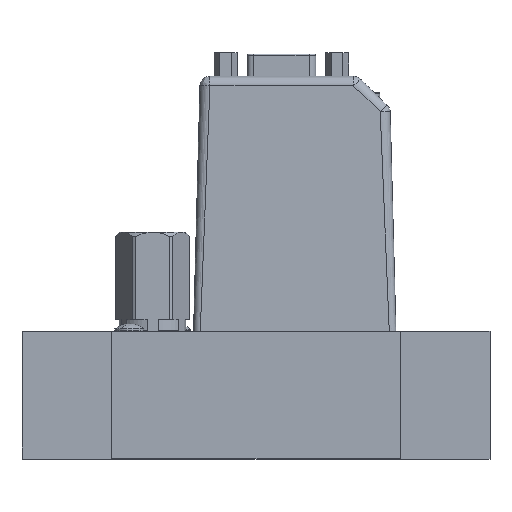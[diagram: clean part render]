
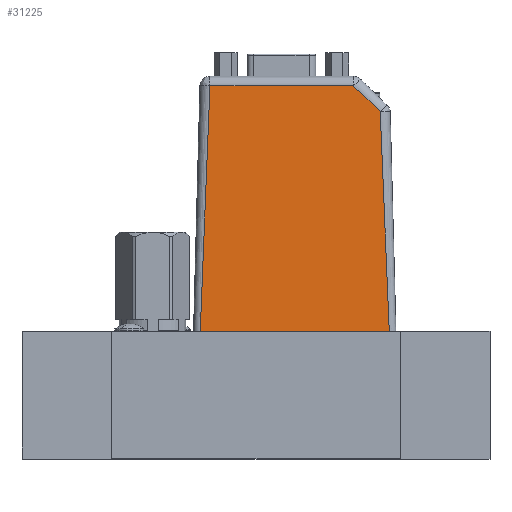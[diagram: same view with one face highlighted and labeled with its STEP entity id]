
A CAD part, top view. The second image highlights one B-rep face of the part: STEP entity #31225.
In plain terms, the highlighted planar face has unit normal (0, 0.026, 1).
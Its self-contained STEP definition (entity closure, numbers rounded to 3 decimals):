
#678 = EDGE_CURVE ( 'NONE', #7586, #15118, #28938, .T. ) ;
#1444 = CARTESIAN_POINT ( 'NONE',  ( 10.684, 0., 12.4 ) ) ;
#1476 = CARTESIAN_POINT ( 'NONE',  ( 45.099, 55.038, 10.959 ) ) ;
#1596 = CARTESIAN_POINT ( 'NONE',  ( 44.997, 55.058, 10.958 ) ) ;
#1799 = LINE ( 'NONE', #6261, #25954 ) ;
#1879 = ORIENTED_EDGE ( 'NONE', *, *, #18079, .T. ) ;
#2126 = CARTESIAN_POINT ( 'NONE',  ( 11.165, 18.359, 11.919 ) ) ;
#2310 = CARTESIAN_POINT ( 'NONE',  ( 54.6, 0., 12.4 ) ) ;
#2619 = CARTESIAN_POINT ( 'NONE',  ( 54.6, 0., 12.4 ) ) ;
#3920 = CARTESIAN_POINT ( 'NONE',  ( 53.101, 0., 12.4 ) ) ;
#5914 = CARTESIAN_POINT ( 'NONE',  ( 51.062, 49.228, 11.111 ) ) ;
#6261 = CARTESIAN_POINT ( 'NONE',  ( 77.491, 23.479, 11.785 ) ) ;
#7450 = EDGE_LOOP ( 'NONE', ( #30594, #24286, #10838, #23590, #1879, #21954 ) ) ;
#7586 = VERTEX_POINT ( 'NONE', #8045 ) ;
#8045 = CARTESIAN_POINT ( 'NONE',  ( 53.101, 0., 12.4 ) ) ;
#10838 = ORIENTED_EDGE ( 'NONE', *, *, #23609, .T. ) ;
#11018 = VECTOR ( 'NONE', #21582, 1000. ) ;
#11119 = VERTEX_POINT ( 'NONE', #15201 ) ;
#11707 = CARTESIAN_POINT ( 'NONE',  ( 12.872, 55.058, 10.958 ) ) ;
#11759 = LINE ( 'NONE', #2310, #11018 ) ;
#12305 = DIRECTION ( 'NONE',  ( 0., 1., -0.026 ) ) ;
#13597 = CARTESIAN_POINT ( 'NONE',  ( 51.515, 32.813, 11.541 ) ) ;
#13847 = VERTEX_POINT ( 'NONE', #1444 ) ;
#14134 = CARTESIAN_POINT ( 'NONE',  ( 12.341, 36.7, 11.439 ) ) ;
#15118 = VERTEX_POINT ( 'NONE', #5914 ) ;
#15201 = CARTESIAN_POINT ( 'NONE',  ( 44.997, 55.058, 10.958 ) ) ;
#15223 = LINE ( 'NONE', #26761, #27317 ) ;
#16011 = CARTESIAN_POINT ( 'NONE',  ( 45.05, 55.058, 10.958 ) ) ;
#16018 = CARTESIAN_POINT ( 'NONE',  ( 51.062, 49.228, 11.111 ) ) ;
#16350 =( BOUNDED_CURVE ( )  B_SPLINE_CURVE ( 3, ( #25624, #1476, #16011, #1596 ),
 .UNSPECIFIED., .F., .F. ) 
 B_SPLINE_CURVE_WITH_KNOTS ( ( 4, 4 ),
 ( 5.511, 6.283 ),
 .UNSPECIFIED. ) 
 CURVE ( )  GEOMETRIC_REPRESENTATION_ITEM ( )  RATIONAL_B_SPLINE_CURVE ( ( 1., 0.951, 0.951, 1. ) ) 
 REPRESENTATION_ITEM ( '' )  );
#17117 = EDGE_CURVE ( 'NONE', #7586, #13847, #11759, .T. ) ;
#18002 = FACE_OUTER_BOUND ( 'NONE', #7450, .T. ) ;
#18079 = EDGE_CURVE ( 'NONE', #29173, #13847, #24898, .T. ) ;
#18985 = CARTESIAN_POINT ( 'NONE',  ( 10.684, 0., 12.4 ) ) ;
#19468 = DIRECTION ( 'NONE',  ( -1., 0., 0. ) ) ;
#21582 = DIRECTION ( 'NONE',  ( -1., 0., 0. ) ) ;
#21954 = ORIENTED_EDGE ( 'NONE', *, *, #17117, .F. ) ;
#22250 = CARTESIAN_POINT ( 'NONE',  ( 45.137, 55.001, 10.96 ) ) ;
#22415 = VERTEX_POINT ( 'NONE', #22250 ) ;
#22954 = EDGE_CURVE ( 'NONE', #15118, #22415, #1799, .T. ) ;
#23206 = CARTESIAN_POINT ( 'NONE',  ( 52.669, 16.416, 11.97 ) ) ;
#23590 = ORIENTED_EDGE ( 'NONE', *, *, #25873, .T. ) ;
#23609 = EDGE_CURVE ( 'NONE', #22415, #11119, #16350, .T. ) ;
#24059 = CARTESIAN_POINT ( 'NONE',  ( 12.872, 55.058, 10.958 ) ) ;
#24286 = ORIENTED_EDGE ( 'NONE', *, *, #22954, .T. ) ;
#24348 = PLANE ( 'NONE',  #29673 ) ;
#24898 = B_SPLINE_CURVE_WITH_KNOTS ( 'NONE', 3,
 ( #11707, #14134, #2126, #18985 ),
 .UNSPECIFIED., .F., .F.,
 ( 4, 4 ),
 ( 0.407, 0.6 ),
 .UNSPECIFIED. ) ;
#25562 = DIRECTION ( 'NONE',  ( -0.716, 0.698, -0.018 ) ) ;
#25624 = CARTESIAN_POINT ( 'NONE',  ( 45.137, 55.001, 10.96 ) ) ;
#25873 = EDGE_CURVE ( 'NONE', #11119, #29173, #15223, .T. ) ;
#25954 = VECTOR ( 'NONE', #25562, 1000. ) ;
#26761 = CARTESIAN_POINT ( 'NONE',  ( 54.6, 55.058, 10.958 ) ) ;
#26771 = DIRECTION ( 'NONE',  ( 0., 0.026, 1. ) ) ;
#27317 = VECTOR ( 'NONE', #19468, 1000. ) ;
#28938 = B_SPLINE_CURVE_WITH_KNOTS ( 'NONE', 3,
 ( #3920, #23206, #13597, #16018 ),
 .UNSPECIFIED., .F., .F.,
 ( 4, 4 ),
 ( 0.4, 0.588 ),
 .UNSPECIFIED. ) ;
#29173 = VERTEX_POINT ( 'NONE', #24059 ) ;
#29673 = AXIS2_PLACEMENT_3D ( 'NONE', #2619, #26771, #12305 ) ;
#30594 = ORIENTED_EDGE ( 'NONE', *, *, #678, .T. ) ;
#31225 = ADVANCED_FACE ( 'NONE', ( #18002 ), #24348, .T. ) ;
